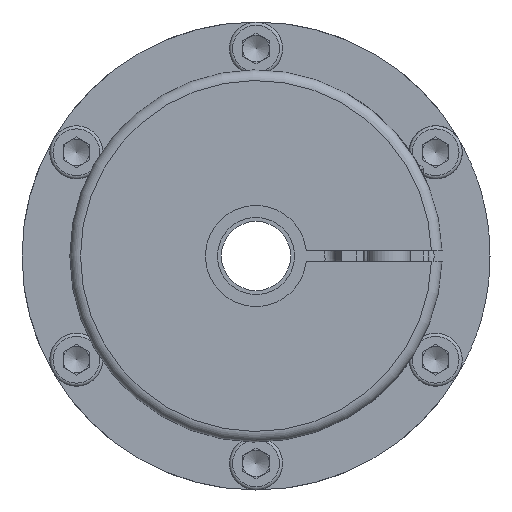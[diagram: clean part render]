
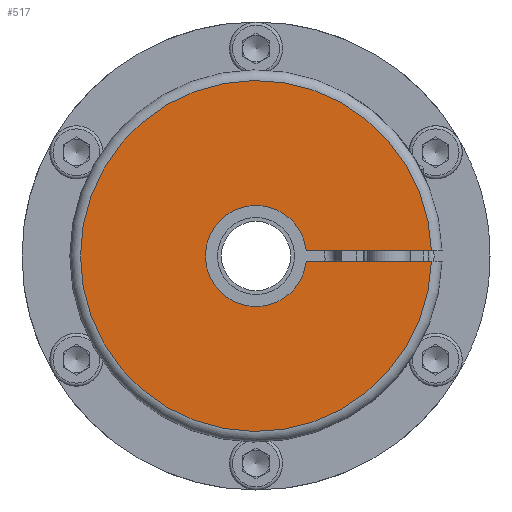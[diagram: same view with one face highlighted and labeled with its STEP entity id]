
A CAD part, left-side view. The second image highlights one B-rep face of the part: STEP entity #517.
In plain terms, the highlighted planar face has unit normal (-1, 0, 0).
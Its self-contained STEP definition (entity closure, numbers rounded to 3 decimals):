
#517 = ADVANCED_FACE( '', ( #1496 ), #1497, .T. );
#1496 = FACE_OUTER_BOUND( '', #3139, .T. );
#1497 = PLANE( '', #3140 );
#3139 = EDGE_LOOP( '', ( #4821, #4822, #4823, #4824 ) );
#3140 = AXIS2_PLACEMENT_3D( '', #4825, #4826, #4827 );
#4821 = ORIENTED_EDGE( '', *, *, #8933, .T. );
#4822 = ORIENTED_EDGE( '', *, *, #8934, .F. );
#4823 = ORIENTED_EDGE( '', *, *, #8935, .T. );
#4824 = ORIENTED_EDGE( '', *, *, #8936, .T. );
#4825 = CARTESIAN_POINT( '', ( -54.05, 0., 7.5 ) );
#4826 = DIRECTION( '', ( -1., 0., 0. ) );
#4827 = DIRECTION( '', ( 0., 0., 1. ) );
#8933 = EDGE_CURVE( '', #10571, #10572, #10573, .T. );
#8934 = EDGE_CURVE( '', #10574, #10572, #10575, .T. );
#8935 = EDGE_CURVE( '', #10574, #10576, #10577, .T. );
#8936 = EDGE_CURVE( '', #10576, #10571, #10578, .T. );
#10571 = VERTEX_POINT( '', #12963 );
#10572 = VERTEX_POINT( '', #12964 );
#10573 = LINE( '', #12965, #12966 );
#10574 = VERTEX_POINT( '', #12967 );
#10575 = CIRCLE( '', #12968, 9.5 );
#10576 = VERTEX_POINT( '', #12969 );
#10577 = LINE( '', #12970, #12971 );
#10578 = CIRCLE( '', #12972, 33. );
#12963 = CARTESIAN_POINT( '', ( -54.05, -32.985, -1. ) );
#12964 = CARTESIAN_POINT( '', ( -54.05, -9.447, -1. ) );
#12965 = CARTESIAN_POINT( '', ( -54.05, -34.986, -1. ) );
#12966 = VECTOR( '', #18198, 1000. );
#12967 = CARTESIAN_POINT( '', ( -54.05, -9.447, 1. ) );
#12968 = AXIS2_PLACEMENT_3D( '', #18199, #18200, #18201 );
#12969 = CARTESIAN_POINT( '', ( -54.05, -32.985, 1. ) );
#12970 = CARTESIAN_POINT( '', ( -54.05, -7.433, 1. ) );
#12971 = VECTOR( '', #18202, 1000. );
#12972 = AXIS2_PLACEMENT_3D( '', #18203, #18204, #18205 );
#18198 = DIRECTION( '', ( 0., 1., 0. ) );
#18199 = CARTESIAN_POINT( '', ( -54.05, 0., 0. ) );
#18200 = DIRECTION( '', ( -1., 0., 0. ) );
#18201 = DIRECTION( '', ( 0., -1., 0. ) );
#18202 = DIRECTION( '', ( 0., -1., 0. ) );
#18203 = CARTESIAN_POINT( '', ( -54.05, 0., 0. ) );
#18204 = DIRECTION( '', ( -1., 0., 0. ) );
#18205 = DIRECTION( '', ( 0., 0., 1. ) );
